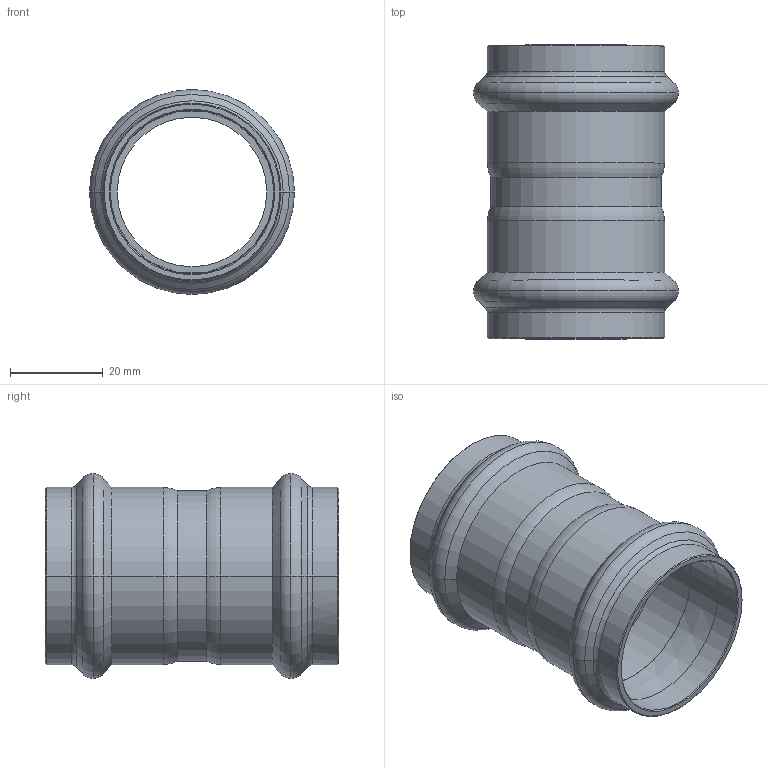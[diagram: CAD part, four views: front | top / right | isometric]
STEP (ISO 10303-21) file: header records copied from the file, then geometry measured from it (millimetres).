
FILE_DESCRIPTION(('CoCreate Modeling STEP Export'),'2;1');
FILE_NAME('8270VW35.stp','2013-01-29T11:58:24',(''),(''),'CoCreate Modeling STEP processor for AP214 (Solid Model)','CoCreate Modeling 17.00A 17-Jun-2010 (C) Parametric Technology GmbH','');
FILE_SCHEMA(('AUTOMOTIVE_DESIGN { 1 0 10303 214 1 1 1 1 }'));
Length unit declared in the file: millimetre
Products named in the file (1): 8270VW35
Bounding box: 44.3 x 63.51 x 44.3 mm (x, y, z)
Volume: 15315.9 mm3; surface area: 16364.8 mm2
Topology: 1 solids, 1 shells, 78 faces, 164 edges, 92 vertices
Faces by surface type: torus 28, cylinder 24, cone 20, plane 6
Entity records: 1678 total; most frequent: ORIENTED_EDGE 328, DIRECTION 266, CARTESIAN_POINT 247, EDGE_CURVE 164, AXIS2_PLACEMENT_3D 111, VERTEX_POINT 92, EDGE_LOOP 84, FACE_OUTER_BOUND 78
